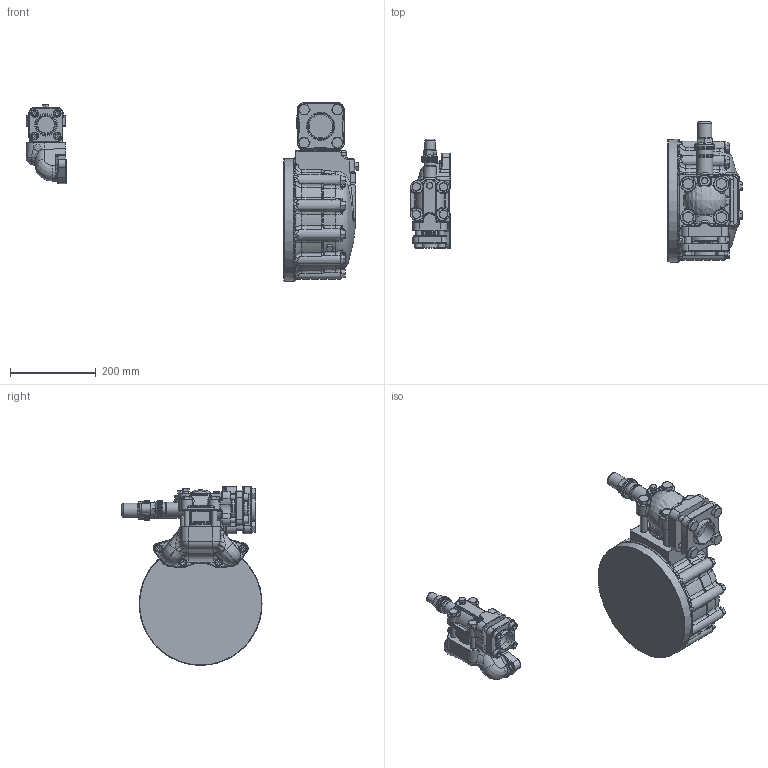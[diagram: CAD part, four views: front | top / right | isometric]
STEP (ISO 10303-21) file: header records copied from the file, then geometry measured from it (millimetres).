
FILE_DESCRIPTION(/* description */ (''),/* implementation_level */ '2;1');
FILE_NAME(/* name */ '6FE.stp',/* time_stamp */ '2024-06-03T15:49:57+02:00',/* author */ (''),/* organization */ (''),/* preprocessor_version */ 'ST-DEVELOPER v19.4',/* originating_system */ 'SIEMENS PLM Software NX2212.8901',/* authorisation */ '');
FILE_SCHEMA (('AUTOMOTIVE_DESIGN { 1 0 10303 214 3 1 1 1 }'));
Products named in the file (5): 200035478ugm001_00; 200034501ugm001_00; 200257523ugm001_00; 200257508ugm001_00; 200638816ugm001_01
Assembly tree (4 placements, depth 2):
  200638816ugm001_01
    200257508ugm001_00
    200257523ugm001_00
    200034501ugm001_00
    200035478ugm001_00
Bounding box: 776.6 x 327.66 x 417.56 mm (x, y, z)
Volume: 12609874.1 mm3; surface area: 641891.1 mm2
Topology: 4 solids, 4 shells, 2603 faces, 6394 edges, 3786 vertices
Faces by surface type: bspline 843, plane 591, cylinder 501, cone 305, torus 266, sphere 67, extrusion 30
Full cylindrical faces by diameter (mm): 8 x4, 10 x4, 12 x8, 13 x4, 13.716 x3, 14 x4, 16 x12, 16.6 x12, 17 x4, 18 x4, 24 x1, 27 x1, 30 x1, 31 x2, 33 x1, 36 x1, 37 x2, 39 x1, 40 x1, 41.4 x1, 42.2 x1, 46 x2, 49 x1, 50 x1, 52.5 x1, 53 x1, 54 x1, 54.17 x1, 57 x3, 59 x1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
Entity records: 126702 total; most frequent: CARTESIAN_POINT 68822, ORIENTED_EDGE 11956, DIRECTION 8882, EDGE_CURVE 5978, AXIS2_PLACEMENT_3D 3796, VERTEX_POINT 3696, EDGE_LOOP 2926, B_SPLINE_CURVE_WITH_KNOTS 2664
